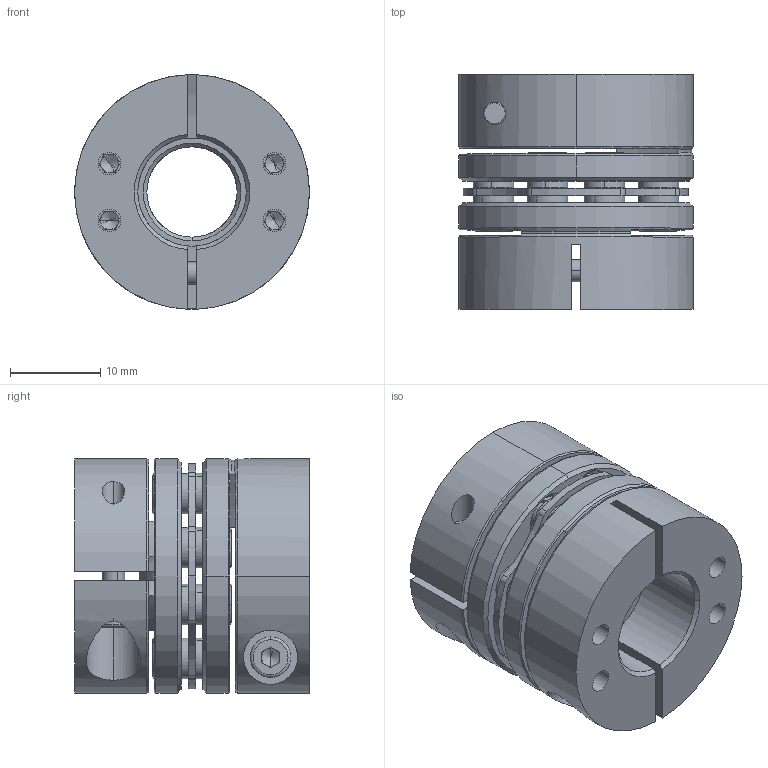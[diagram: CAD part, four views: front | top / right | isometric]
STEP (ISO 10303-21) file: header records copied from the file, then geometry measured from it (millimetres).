
FILE_DESCRIPTION (( 'STEP AP203' ), '1' );
FILE_NAME ('LDG-D26-10-12.STEP', '2021-10-28T04:30:33', ( '' ), ( '' ), 'SwSTEP 2.0', 'SolidWorks 2018', '' );
FILE_SCHEMA (( 'CONFIG_CONTROL_DESIGN' ));
Length unit declared in the file: millimetre
Products named in the file (2): 錨璃2^LDG-D26蚾饜芞1; LDG-D26-10-12
Assembly tree (1 placements, depth 2):
  LDG-D26-10-12
    錨璃2^LDG-D26蚾饜芞1
Bounding box: 26 x 26 x 26 mm (x, y, z)
Volume: 9151.3 mm3; surface area: 8813 mm2
Topology: 1 solids, 21 shells, 765 faces, 1872 edges, 1159 vertices
Faces by surface type: cylinder 301, plane 244, cone 200, torus 20
Entity records: 23057 total; most frequent: DIRECTION 4281, CARTESIAN_POINT 4164, ORIENTED_EDGE 3688, EDGE_CURVE 1844, AXIS2_PLACEMENT_3D 1740, VERTEX_POINT 1159, CIRCLE 971, EDGE_LOOP 909
